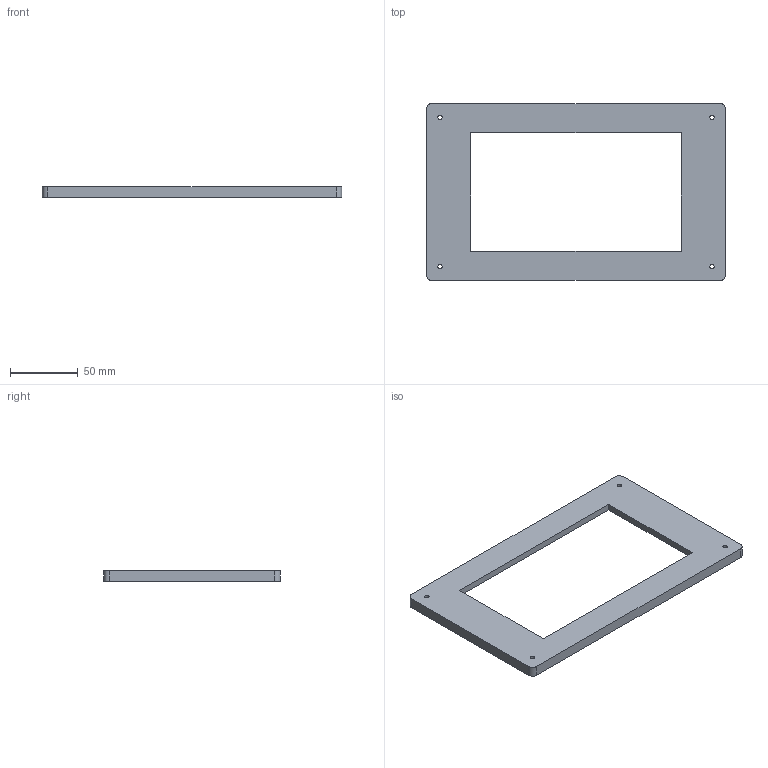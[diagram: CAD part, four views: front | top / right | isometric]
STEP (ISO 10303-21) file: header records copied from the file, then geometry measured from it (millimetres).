
FILE_DESCRIPTION(('Open CASCADE Model'),'2;1');
FILE_NAME('Open CASCADE Shape Model','2026-10-12T17:04:12',('Author'),( 'Open CASCADE'),'Open CASCADE STEP processor 7.7','Open CASCADE 7.7' ,'Unknown');
FILE_SCHEMA(('AUTOMOTIVE_DESIGN { 1 0 10303 214 1 1 1 1 }'));
Length unit declared in the file: millimetre
Products named in the file (1): COMPOUND
Bounding box: 220 x 130 x 8 mm (x, y, z)
Volume: 105255 mm3; surface area: 40111 mm2
Topology: 1 solids, 1 shells, 23 faces, 60 edges, 40 vertices
Faces by surface type: plane 15, cylinder 8
Full cylindrical faces by diameter (mm): 3.2 x4
Entity records: 1516 total; most frequent: CARTESIAN_POINT 284, DIRECTION 224, LINE 132, VECTOR 132, ORIENTED_EDGE 120, PCURVE 120, DEFINITIONAL_REPRESENTATION 120, EDGE_CURVE 60
